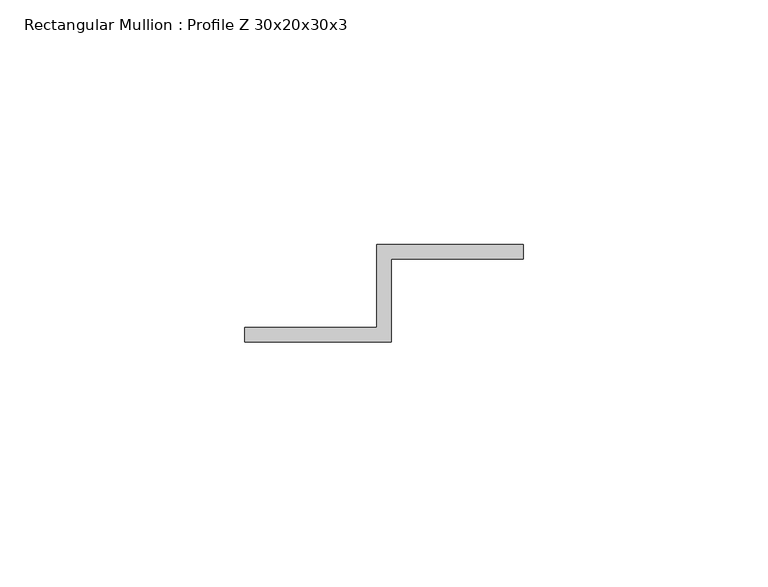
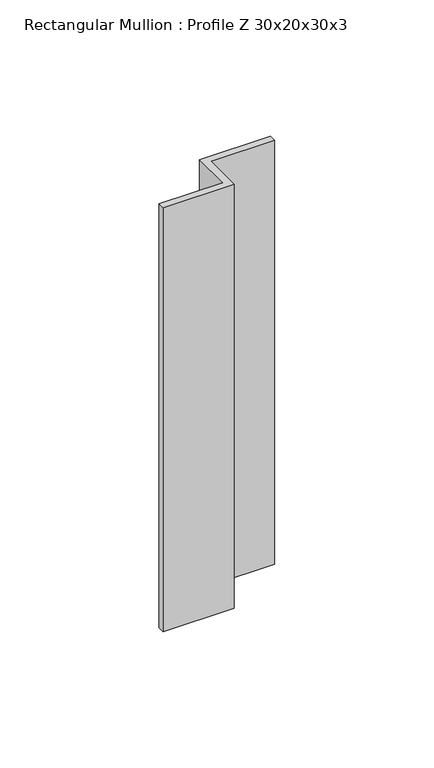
"""IFC4 building model written with IfcOpenShell, lengths in millimetres: member geometry, Rectangular Mullion : Profile Z 30x20x30x3."""

from ifc_helpers import new_model, si_unit, frame, origin, place, context, project, spatial, polyline, outline, extrude, source, transform, mapped, element, save


def rectangular_mullion_profile_z_30x20x30x3_0b947876(model_context):
    return source(origin(), model_context, "Body", "SweptSolid", [
        extrude(outline(polyline([(-33.0, -29.5), (-3.0, -29.5), (-3.0, -32.5), (-30.0, -32.5), (-30.0, -49.5), (-60.0, -49.5), (-60.0, -46.5), (-33.0, -46.5), (-33.0, -29.5)])), frame((0.0, 0.0, -190.0000003), z_axis=(0.0, 0.0, 1.0), x_axis=(1.0, 0.0, 0.0)), (0.0, 0.0, 1.0), 190.0000003),
    ])


if __name__ == "__main__":
    model = new_model("IFC4")
    model_context = context("Model", 3, world=origin())
    ifc_project = project(units=[si_unit("LENGTHUNIT", "METRE", prefix="MILLI")], contexts=[model_context])
    site = spatial("IfcSite", under=ifc_project)
    building = spatial("IfcBuilding", under=site)
    placement = place(None, origin())
    rectangular_mullion_profile_z_30x20x30x3_shape = rectangular_mullion_profile_z_30x20x30x3_0b947876(model_context)
    element("IfcMember", 1, ObjectType="Rectangular Mullion : Profile Z 30x20x30x3", at=placement, inside=building, context=model_context, shape_type="MappedRepresentation", body=[
        mapped(rectangular_mullion_profile_z_30x20x30x3_shape, transform((0.0, 0.0, 0.0), x_axis=(1.0, 0.0, 0.0), y_axis=(0.0, 1.0, 0.0), z_axis=(0.0, 0.0, 1.0))),
    ])
    save(model, "model.ifc")
